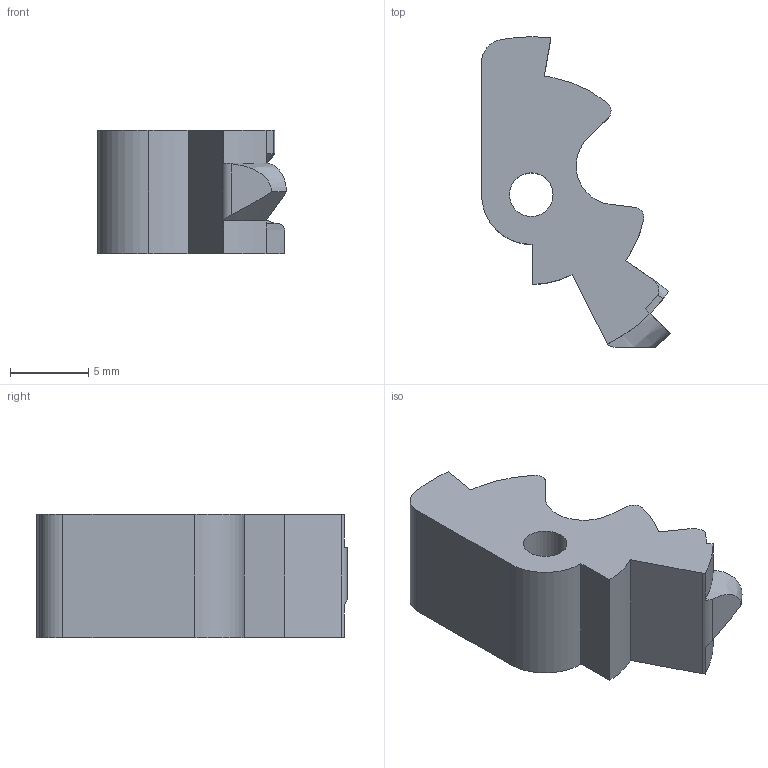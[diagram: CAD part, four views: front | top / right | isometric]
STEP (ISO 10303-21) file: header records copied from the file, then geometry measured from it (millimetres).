
FILE_DESCRIPTION(/* description */ ('STEP AP242','CAx-IF Rec.Pracs.---Representation and Presentation of Product Manufacturing Information (PMI)---4.0---2014-10-13','CAx-IF Rec.Pracs.---3D Tessellated Geometry---0.4---2014-09-14','2;1'),/* implementation_level */ '2;1');
FILE_NAME(/* name */ '61ff4f1c9bf8bb22c7c45a66',/* time_stamp */ '2022-02-06T04:31:24+00:00',/* author */ (''),/* organization */ (''),/* preprocessor_version */ 'ST-DEVELOPER v18.101',/* originating_system */ ' ',/* authorisation */ ' ');
FILE_SCHEMA (('AP242_MANAGED_MODEL_BASED_3D_ENGINEERING_MIM_LF { 1 0 10303 442 1 1 4 }'));
Length unit declared in the file: metre
Products named in the file (1): FRT Safety Lever
Bounding box: 12.07 x 19.86 x 7.88 mm (x, y, z)
Volume: 888.8 mm3; surface area: 766.7 mm2
Topology: 1 solids, 1 shells, 37 faces, 131 edges, 96 vertices
Faces by surface type: cylinder 16, plane 14, bspline 5, cone 1, torus 1
Full cylindrical faces by diameter (mm): 2.794 x1
Entity records: 1625 total; most frequent: CARTESIAN_POINT 540, ORIENTED_EDGE 260, DIRECTION 179, EDGE_CURVE 130, VERTEX_POINT 96, AXIS2_PLACEMENT_3D 68, B_SPLINE_CURVE_WITH_KNOTS 52, LINE 43
